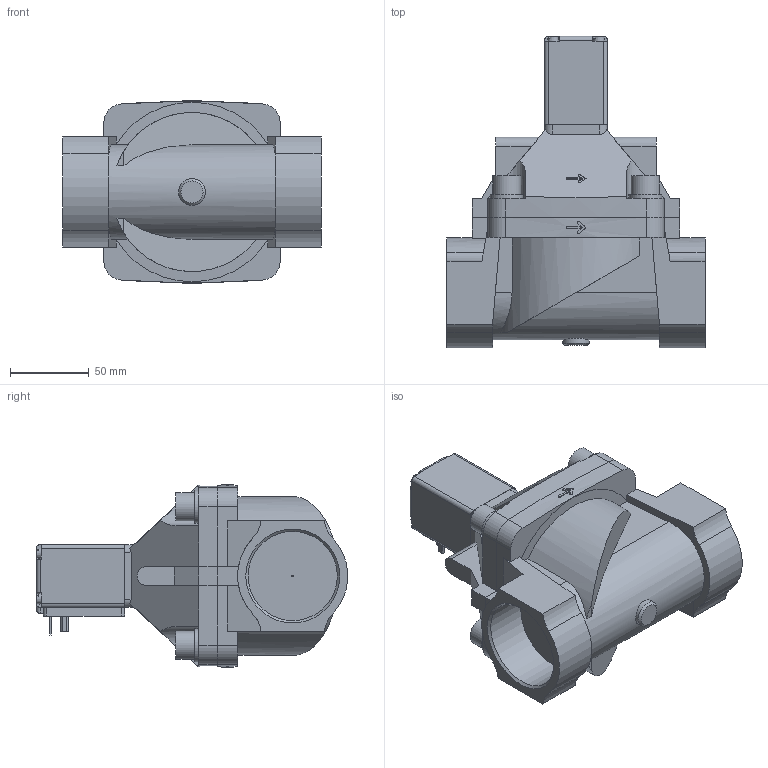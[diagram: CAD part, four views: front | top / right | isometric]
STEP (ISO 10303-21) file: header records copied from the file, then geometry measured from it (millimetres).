
FILE_DESCRIPTION(/* description */ ('STEP AP214'),/* implementation_level */ '2;1');
FILE_NAME(/* name */ '5404-307476-Servo-assisted_2_2_way_piston_valve',/* time_stamp */ '2024-02-29T15:04:53+01:00',/* author */ ('License CC BY-ND 4.0'),/* organization */ ('CADENAS'),/* preprocessor_version */ 'ST-DEVELOPER v19.3',/* originating_system */ 'PARTsolutions',/* authorisation */ ' ');
FILE_SCHEMA (('AUTOMOTIVE_DESIGN {1 0 10303 214 3 1 1}'));
Length unit declared in the file: millimetre
Products named in the file (4): 5404-307476-Servo-assisted 2/2 way piston valve; 5282g-8950MS000-2/2-Wege-Magnetventil_Gehaeuse; 5282d-50MSAZ4_ON-2/2-Wege-Magnetventil_Deckel; 6213sp 40 Kein 40
Assembly tree (3 placements, depth 2):
  5404-307476-Servo-assisted 2/2 way piston valve
    5282g-8950MS000-2/2-Wege-Magnetventil_Gehaeuse
    5282d-50MSAZ4_ON-2/2-Wege-Magnetventil_Deckel
    6213sp 40 Kein 40
Bounding box: 164 x 197.67 x 116 mm (x, y, z)
Volume: 1251267.1 mm3; surface area: 135821.3 mm2
Topology: 3 solids, 3 shells, 284 faces, 757 edges, 501 vertices
Faces by surface type: plane 183, cylinder 92, cone 9
Full cylindrical faces by diameter (mm): 1 x1, 2.45 x1, 17 x1, 18 x4, 21.1 x4, 56.656 x2
Entity records: 9571 total; most frequent: CARTESIAN_POINT 1672, DIRECTION 1498, ORIENTED_EDGE 1458, EDGE_CURVE 729, AXIS2_PLACEMENT_3D 520, VERTEX_POINT 493, LINE 458, VECTOR 458
